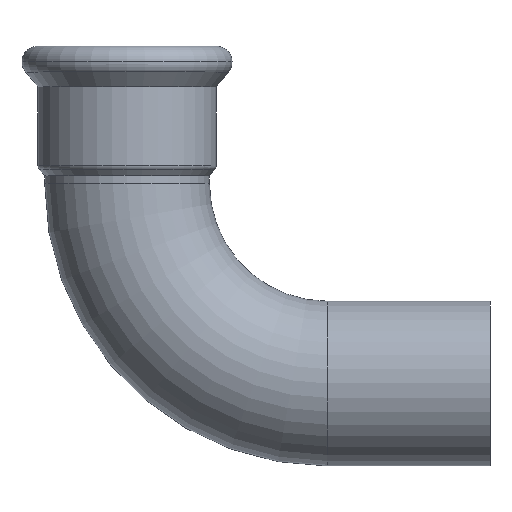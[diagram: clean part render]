
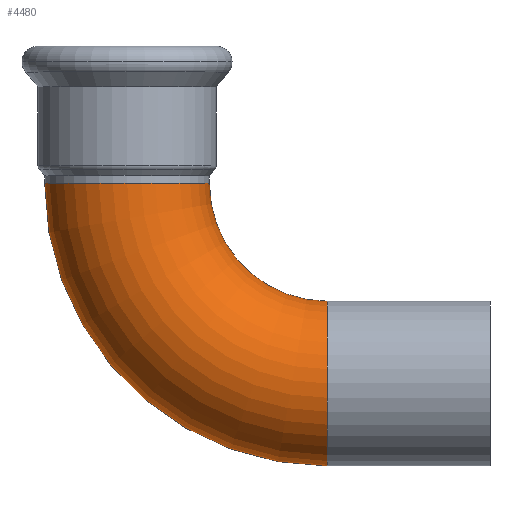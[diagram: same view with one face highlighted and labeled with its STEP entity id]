
A CAD part, top view. The second image highlights one B-rep face of the part: STEP entity #4480.
In plain terms, the highlighted toroidal (fillet/blend) face has major radius 51 mm and minor radius 21 mm.
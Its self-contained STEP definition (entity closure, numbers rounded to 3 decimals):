
#540=CARTESIAN_POINT('',(-71.154,195.131,0.));
#550=VERTEX_POINT('',#540);
#730=CARTESIAN_POINT('',(-29.154,195.131,
0.));
#740=VERTEX_POINT('',#730);
#770=CARTESIAN_POINT('',(-50.154,195.131,0.));
#780=DIRECTION('',(0.,-1.,0.));
#790=DIRECTION('',(-1.,0.,0.));
#800=AXIS2_PLACEMENT_3D('',#770,#780,#790);
#810=CIRCLE('',#800,21.);
#820=EDGE_CURVE('',#740,#550,#810,.T.);
#980=CARTESIAN_POINT('',(0.846,165.131,
0.));
#990=VERTEX_POINT('',#980);
#1020=CARTESIAN_POINT('',(0.846,144.131,0.));
#1030=DIRECTION('',(1.,0.,0.));
#1040=DIRECTION('',(0.,-1.,0.));
#1050=AXIS2_PLACEMENT_3D('',#1020,#1030,#1040);
#1060=CIRCLE('',#1050,21.);
#1070=CARTESIAN_POINT('',(0.846,123.131,0.));
#1080=VERTEX_POINT('',#1070);
#4200=CARTESIAN_POINT('',(0.846,195.131,0.));
#4210=DIRECTION('',(0.,0.,1.));
#4220=DIRECTION('',(-1.,0.,0.));
#4230=AXIS2_PLACEMENT_3D('',#4200,#4210,#4220);
#4240=TOROIDAL_SURFACE('',#4230,51.,21.);
#4250=CARTESIAN_POINT('',(0.846,144.131,21.));
#4260=VERTEX_POINT('',#4250);
#4270=EDGE_CURVE('',#4260,#1080,#1060,.T.);
#4280=ORIENTED_EDGE('',*,*,#4270,.F.);
#4290=CARTESIAN_POINT('',(0.846,195.131,
0.));
#4300=DIRECTION('',(0.,0.,1.));
#4310=DIRECTION('',(-1.,0.,0.));
#4320=AXIS2_PLACEMENT_3D('',#4290,#4300,#4310);
#4330=CIRCLE('',#4320,72.);
#4340=EDGE_CURVE('',#550,#1080,#4330,.T.);
#4350=ORIENTED_EDGE('',*,*,#4340,.T.);
#4360=ORIENTED_EDGE('',*,*,#820,.T.);
#4370=CARTESIAN_POINT('',(0.846,195.131,
0.));
#4380=DIRECTION('',(0.,0.,1.));
#4390=DIRECTION('',(-1.,0.,0.));
#4400=AXIS2_PLACEMENT_3D('',#4370,#4380,#4390);
#4410=CIRCLE('',#4400,30.);
#4420=EDGE_CURVE('',#740,#990,#4410,.T.);
#4430=ORIENTED_EDGE('',*,*,#4420,.F.);
#4440=EDGE_CURVE('',#990,#4260,#1060,.T.);
#4450=ORIENTED_EDGE('',*,*,#4440,.F.);
#4460=EDGE_LOOP('',(#4450,#4430,#4360,#4350,#4280));
#4470=FACE_OUTER_BOUND('',#4460,.T.);
#4480=ADVANCED_FACE('',(#4470),#4240,.T.);
